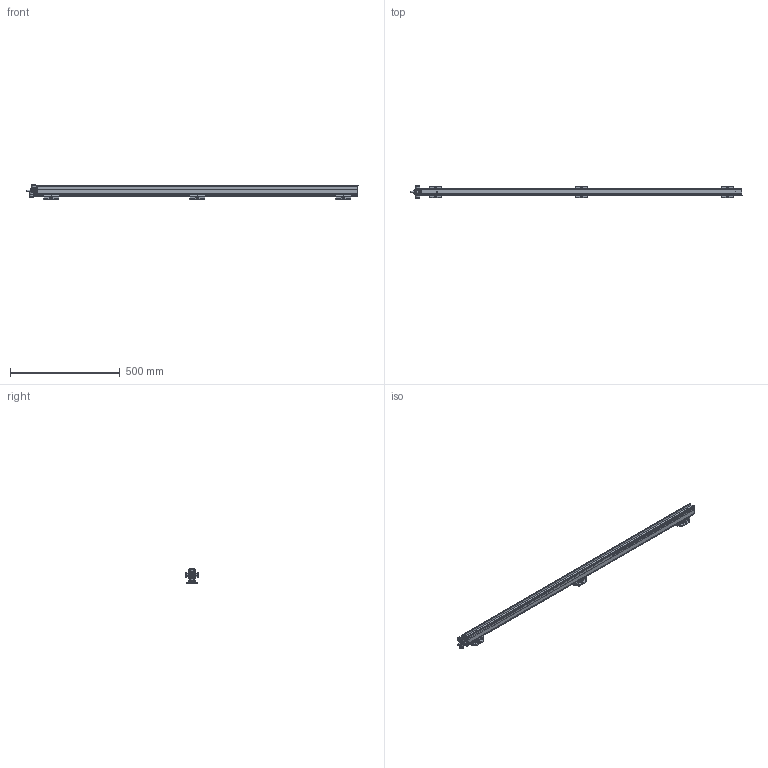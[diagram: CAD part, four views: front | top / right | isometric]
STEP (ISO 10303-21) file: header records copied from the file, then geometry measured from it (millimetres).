
FILE_DESCRIPTION(/* description */ (''),/* implementation_level */ '2;1');
FILE_NAME(/* name */ 'PERFORMAXEASYEX_1290_3D_GB',/* time_stamp */ '2017-05-31T09:48:59+02:00',/* author */ (''),/* organization */ (''),/* preprocessor_version */ 'ST-DEVELOPER v15.7',/* originating_system */ 'HiCAD 2015 2002.1 Build 408',/* authorisation */ '');
FILE_SCHEMA (('AUTOMOTIVE_DESIGN { 1 0 10303 214 1 1 1 1 }'));
Length unit declared in the file: millimetre
Products named in the file (66): Root; -_Performax (IQ) Easy Ex 1290 eff (Speed); -_LED; -_PROFILE; -_POTTING; -_CAP DE; -_CAP CE; -_CABLE; -_PIN; -_COVER; 4532000100_Mounting bracket bars; -_Side piece; -_Slide piece; -_Bracket small; DIN 13-M3; DIN 76-M3; 2047507823_PE connection; DIN 916-M4x20-45H_Set screws; GEWINDE; ISO 8738-4-160 HV_Washers for studs; ISO 4032-M4-10_Hexagon nuts; DIN 127-A 4-FSt_Washers; 2047493713_Cable exits; -_Exit K; -_Clip; -_Gland body; -_Exit S; -_Exit Q; -_Washer ø20mm, 5mm thick for corr. conduit (exit
 Q); -_Exit I; -_Exit U; -_Exit A; Thread_2
Assembly tree (65 placements, depth 5):
  Root
    -_Performax (IQ) Easy Ex 1290 eff (Speed)
      -_LED
      -_PROFILE
      -_POTTING
      -_CAP DE
      -_CAP CE
      -_CABLE
      -_PIN
      -_PIN
      -_COVER
      4532000100_Mounting bracket bars
        -_Side piece
        -_Side piece
        -_Slide piece
        -_Bracket small
          DIN 13-M3
          DIN 13-M3
          DIN 76-M3
          DIN 76-M3
      4532000100_Mounting bracket bars
        -_Side piece
        -_Side piece
        -_Slide piece
        -_Bracket small
          DIN 13-M3
          DIN 13-M3
          DIN 76-M3
          DIN 76-M3
      4532000100_Mounting bracket bars
        -_Side piece
        -_Side piece
        -_Slide piece
        -_Bracket small
          DIN 13-M3
          DIN 13-M3
          DIN 76-M3
          DIN 76-M3
      2047507823_PE connection
        DIN 916-M4x20-45H_Set screws
          GEWINDE
        ISO 8738-4-160 HV_Washers for studs
        ISO 4032-M4-10_Hexagon nuts
          GEWINDE
        DIN 127-A 4-FSt_Washers
        ISO 4032-M4-10_Hexagon nuts
          GEWINDE
      2047493713_Cable exits
        -_Exit K
          -_Clip
          -_Gland body
        -_Exit S
          -_Clip
          -_Gland body
        -_Exit Q
          -_Clip
          -_Washer ø20mm, 5mm thick for corr. conduit (exit
 Q)
          -_Gland body
        -_Exit I
          -_Clip
Bounding box: 1512.4 x 58.79 x 68.9 mm (x, y, z)
Volume: 1839177.1 mm3; surface area: 539905.1 mm2
Topology: 55 solids, 64 shells, 2590 faces, 6638 edges, 4032 vertices
Faces by surface type: plane 1152, cylinder 1031, torus 134, sphere 126, bspline 96, cone 51
Full cylindrical faces by diameter (mm): 2.387 x12, 3 x24, 3.141 x4, 4 x5, 4.3 x1, 5.4 x2, 5.5 x15, 8 x2, 11.3 x4, 12.5 x4, 13 x1, 14.6 x5, 15.1 x5, 18.4 x4, 20 x7, 20.2 x4
Entity records: 141652 total; most frequent: CARTESIAN_POINT 28981, DIRECTION 13310, PRESENTATION_STYLE_ASSIGNMENT 12610, OVER_RIDING_STYLED_ITEM 12556, DRAUGHTING_PRE_DEFINED_CURVE_FONT 12538, CURVE_STYLE 12538, ORIENTED_EDGE 12538, EDGE_CURVE 6269
